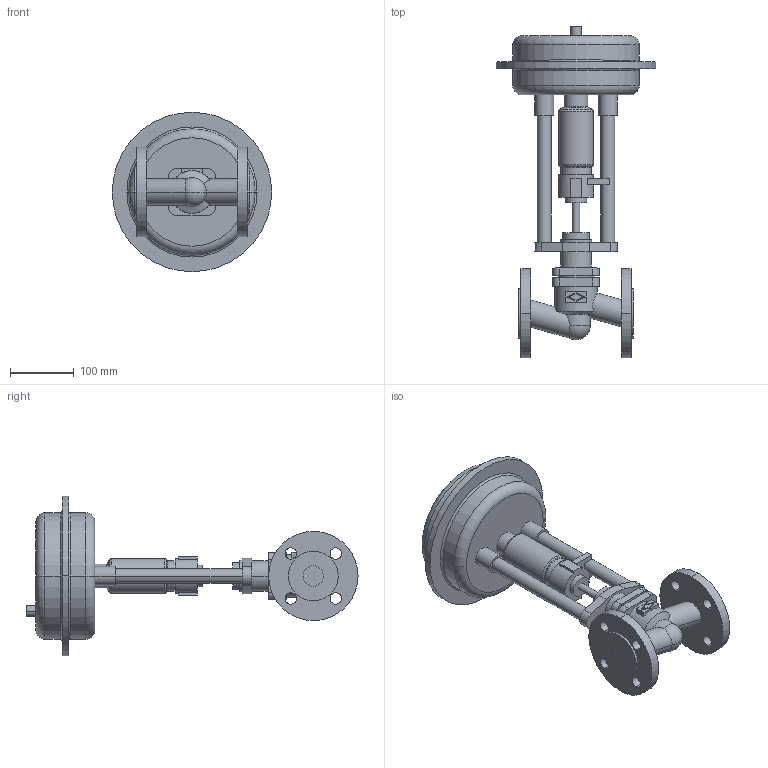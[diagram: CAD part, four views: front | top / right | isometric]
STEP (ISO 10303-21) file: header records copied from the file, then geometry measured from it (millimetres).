
FILE_DESCRIPTION(('OneSpaceDesigner STEP Export'),'2;1');
FILE_NAME('c000001459.stp','2005-02-15T 8:56:51',(''),(''),'OneSpace Designer STEP processor (Jan. 2003) for AP203(Solid Model)','OneSpace Designer 12.01D 09-Jul-2004 (C) CoCreate Software GmbH','');
FILE_SCHEMA(('CONFIG_CONTROL_DESIGN'));
Length unit declared in the file: millimetre
Products named in the file (2): 1; 2
Bounding box: 250 x 520.5 x 250 mm (x, y, z)
Volume: 4639608.3 mm3; surface area: 357989.3 mm2
Topology: 2 solids, 2 shells, 181 faces, 436 edges, 284 vertices
Faces by surface type: cylinder 84, plane 73, torus 16, cone 6, sphere 2
Entity records: 5045 total; most frequent: CARTESIAN_POINT 984, ORIENTED_EDGE 868, DIRECTION 727, EDGE_CURVE 434, VERTEX_POINT 284, AXIS2_PLACEMENT_3D 264, EDGE_LOOP 224, VECTOR 199
